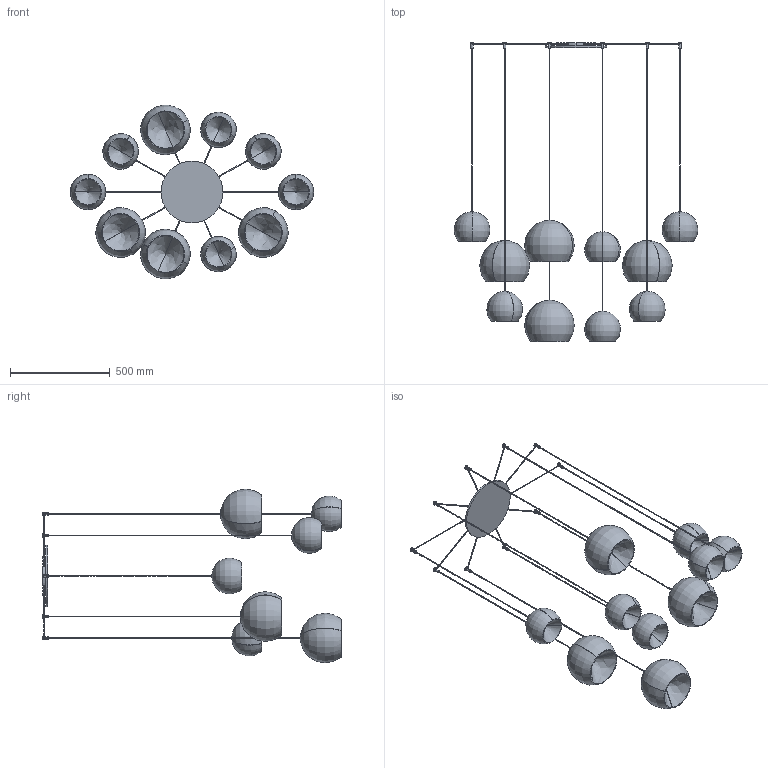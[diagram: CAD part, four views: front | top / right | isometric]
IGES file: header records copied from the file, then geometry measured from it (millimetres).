
Start section: SolidWorks IGES file using analytic representation for surfaces
Global section: file name: Y:\eforma\TECNICO\SOLIDWORKS\E-FORMA\09-LAMPADE\CHERRY MIX\08 modelli 3D web\CRM10-00-CHERRY MIX_10 SOSPENSIONE.IGS; native system: SolidWorks 2022; preprocessor: SolidWorks 2022; author: eforma.tech; date: 240801.144119; units: millimetre
Bounding box: 1223.26 x 1500 x 872.61 mm (x, y, z)
Volume: 3971100.8 mm3; surface area: 3233471.3 mm2
Topology: 51 solids, 51 shells, 380 faces, 805 edges, 508 vertices
Faces by surface type: revolution 265, plane 115
